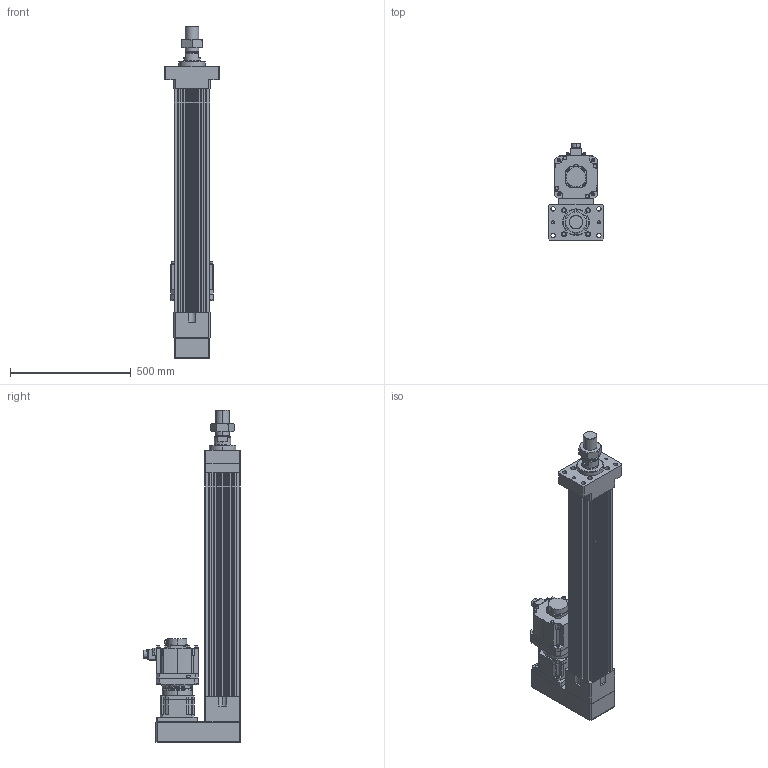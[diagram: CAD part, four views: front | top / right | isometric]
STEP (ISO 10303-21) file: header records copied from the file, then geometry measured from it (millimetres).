
FILE_DESCRIPTION (( 'STEP AP203' ), '1' );
FILE_NAME ('HES150NS(HS)-P650-W035G00-M-FMA.STEP', '2023-01-31T10:43:34', ( 'tms' ), ( '' ), 'SwSTEP 2.0', 'SolidWorks 2013', '' );
FILE_SCHEMA (( 'CONFIG_CONTROL_DESIGN' ));
Length unit declared in the file: millimetre
Products named in the file (9): HES150-P650-G142-FMA; M56X2.0P; HG-SR352; P1301500001; HES150 ROD M ST650; HES150NS(HS)-P650-W035G00-M-FMA; P0403500801; AB1421; AB142-003[HG-SR352]
Assembly tree (8 placements, depth 3):
  HES150NS(HS)-P650-W035G00-M-FMA
    HES150-P650-G142-FMA
    HES150 ROD M ST650
    M56X2.0P
    AB142-003[HG-SR352]
      AB1421
      P1301500001
      P0403500801
    HG-SR352
Bounding box: 230 x 403.85 x 1376 mm (x, y, z)
Volume: 22238859.2 mm3; surface area: 2248480.5 mm2
Topology: 4 solids, 18 shells, 1426 faces, 3722 edges, 2416 vertices
Faces by surface type: cylinder 669, plane 531, cone 144, bspline 76, torus 6
Entity records: 52806 total; most frequent: CARTESIAN_POINT 16363, DIRECTION 7620, ORIENTED_EDGE 7346, EDGE_CURVE 3695, AXIS2_PLACEMENT_3D 2898, VERTEX_POINT 2416, VECTOR 1824, LINE 1824
